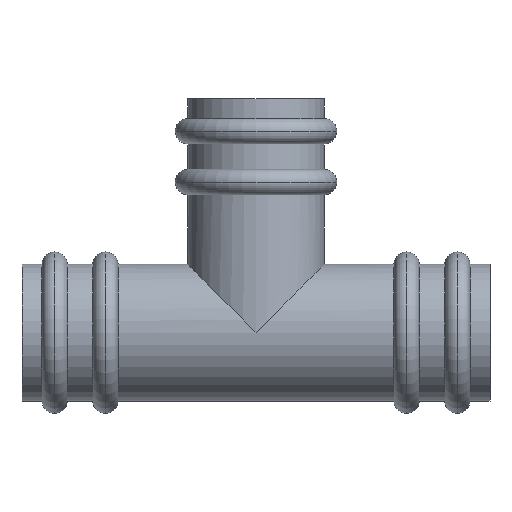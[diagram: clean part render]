
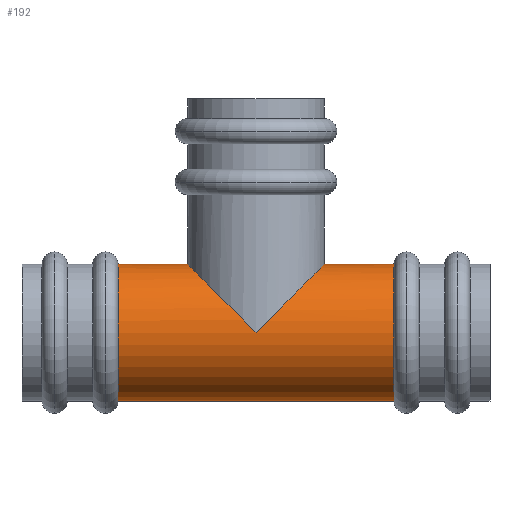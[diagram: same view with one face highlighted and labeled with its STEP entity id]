
A CAD part, front view. The second image highlights one B-rep face of the part: STEP entity #192.
In plain terms, the highlighted cylindrical face has radius 18.85 mm (diameter 37.7 mm), a partial arc.
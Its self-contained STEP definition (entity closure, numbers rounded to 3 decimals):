
#192=ADVANCED_FACE('',(#472),#473,.T.);
#472=FACE_OUTER_BOUND('',#864,.T.);
#473=CYLINDRICAL_SURFACE('',#865,18.85);
#864=EDGE_LOOP('',(#1370,#1371,#1372,#1373,#1374,#1375,#1376));
#865=AXIS2_PLACEMENT_3D('',#1377,#1378,#1379);
#1370=ORIENTED_EDGE('',*,*,#2243,.F.);
#1371=ORIENTED_EDGE('',*,*,#2244,.F.);
#1372=ORIENTED_EDGE('',*,*,#2245,.F.);
#1373=ORIENTED_EDGE('',*,*,#2246,.T.);
#1374=ORIENTED_EDGE('',*,*,#2247,.T.);
#1375=ORIENTED_EDGE('',*,*,#2248,.F.);
#1376=ORIENTED_EDGE('',*,*,#2249,.F.);
#1377=CARTESIAN_POINT('',(52.25,0.0,0.));
#1378=DIRECTION('',(-1.0,0.0,0.0));
#1379=DIRECTION('',(0.0,0.0,-1.0));
#2243=EDGE_CURVE('',#2657,#2658,#2659,.T.);
#2244=EDGE_CURVE('',#2660,#2657,#2661,.T.);
#2245=EDGE_CURVE('',#2662,#2660,#2663,.T.);
#2246=EDGE_CURVE('',#2662,#2664,#2665,.T.);
#2247=EDGE_CURVE('',#2664,#2666,#2667,.T.);
#2248=EDGE_CURVE('',#2668,#2666,#2669,.T.);
#2249=EDGE_CURVE('',#2658,#2668,#2670,.T.);
#2657=VERTEX_POINT('',#3175);
#2658=VERTEX_POINT('',#3176);
#2659=LINE('',#3177,#3178);
#2660=VERTEX_POINT('',#3179);
#2661=CIRCLE('',#3180,18.85);
#2662=VERTEX_POINT('',#3181);
#2663=LINE('',#3182,#3183);
#2664=VERTEX_POINT('',#3184);
#2665=ELLIPSE('',#3185,26.658,18.85);
#2666=VERTEX_POINT('',#3186);
#2667=ELLIPSE('',#3187,26.658,18.85);
#2668=VERTEX_POINT('',#3188);
#2669=LINE('',#3189,#3190);
#2670=CIRCLE('',#3191,18.85);
#3175=CARTESIAN_POINT('',(102.5,0.,-18.85));
#3176=CARTESIAN_POINT('',(26.5,0.,-18.85));
#3177=CARTESIAN_POINT('',(52.25,0.,-18.85));
#3178=VECTOR('',#3810,1.0);
#3179=CARTESIAN_POINT('',(102.5,0.,18.85));
#3180=AXIS2_PLACEMENT_3D('',#3811,#3812,#3813);
#3181=CARTESIAN_POINT('',(83.35,0.,18.85));
#3182=CARTESIAN_POINT('',(52.25,0.,18.85));
#3183=VECTOR('',#3814,1.0);
#3184=CARTESIAN_POINT('',(64.5,-18.85,0.0));
#3185=AXIS2_PLACEMENT_3D('',#3815,#3816,#3817);
#3186=CARTESIAN_POINT('',(45.65,0.,18.85));
#3187=AXIS2_PLACEMENT_3D('',#3818,#3819,#3820);
#3188=CARTESIAN_POINT('',(26.5,0.,18.85));
#3189=CARTESIAN_POINT('',(52.25,0.,18.85));
#3190=VECTOR('',#3821,1.0);
#3191=AXIS2_PLACEMENT_3D('',#3822,#3823,#3824);
#3810=DIRECTION('',(-1.0,0.0,0.0));
#3811=CARTESIAN_POINT('',(102.5,0.0,0.));
#3812=DIRECTION('',(1.0,0.0,-0.0));
#3813=DIRECTION('',(0.0,0.0,1.0));
#3814=DIRECTION('',(1.0,-0.0,-0.0));
#3815=CARTESIAN_POINT('',(64.5,0.0,0.));
#3816=DIRECTION('',(0.707,0.0,-0.707));
#3817=DIRECTION('',(0.707,0.0,0.707));
#3818=CARTESIAN_POINT('',(64.5,0.0,0.));
#3819=DIRECTION('',(-0.707,-0.0,-0.707));
#3820=DIRECTION('',(0.707,0.0,-0.707));
#3821=DIRECTION('',(1.0,-0.0,-0.0));
#3822=CARTESIAN_POINT('',(26.5,0.0,0.));
#3823=DIRECTION('',(-1.0,0.0,0.));
#3824=DIRECTION('',(0.,0.0,-1.0));
